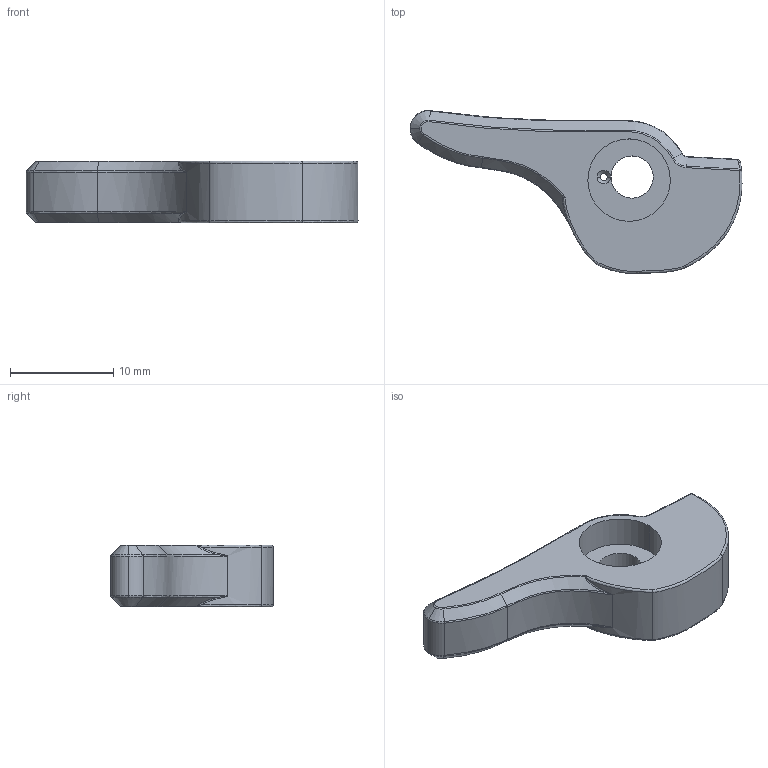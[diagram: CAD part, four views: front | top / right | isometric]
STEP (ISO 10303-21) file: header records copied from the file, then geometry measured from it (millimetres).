
FILE_DESCRIPTION (( 'STEP AP203' ), '1' );
FILE_NAME ('20181122 EXO CRUISE CONTROL V4_2.STEP', '2018-11-22T08:43:47', ( '' ), ( '' ), 'SwSTEP 2.0', 'SolidWorks 2017', '' );
FILE_SCHEMA (( 'CONFIG_CONTROL_DESIGN' ));
Length unit declared in the file: millimetre
Products named in the file (1): 20181122 EXO CRUISE CONTROL V4_2
Bounding box: 32.22 x 15.81 x 6 mm (x, y, z)
Volume: 1440.4 mm3; surface area: 1063.8 mm2
Topology: 1 solids, 1 shells, 94 faces, 212 edges, 119 vertices
Faces by surface type: bspline 48, cylinder 16, torus 13, cone 9, plane 6, sphere 2
Entity records: 4297 total; most frequent: CARTESIAN_POINT 2462, ORIENTED_EDGE 420, DIRECTION 288, EDGE_CURVE 210, AXIS2_PLACEMENT_3D 127, VERTEX_POINT 119, EDGE_LOOP 99, FACE_OUTER_BOUND 94
